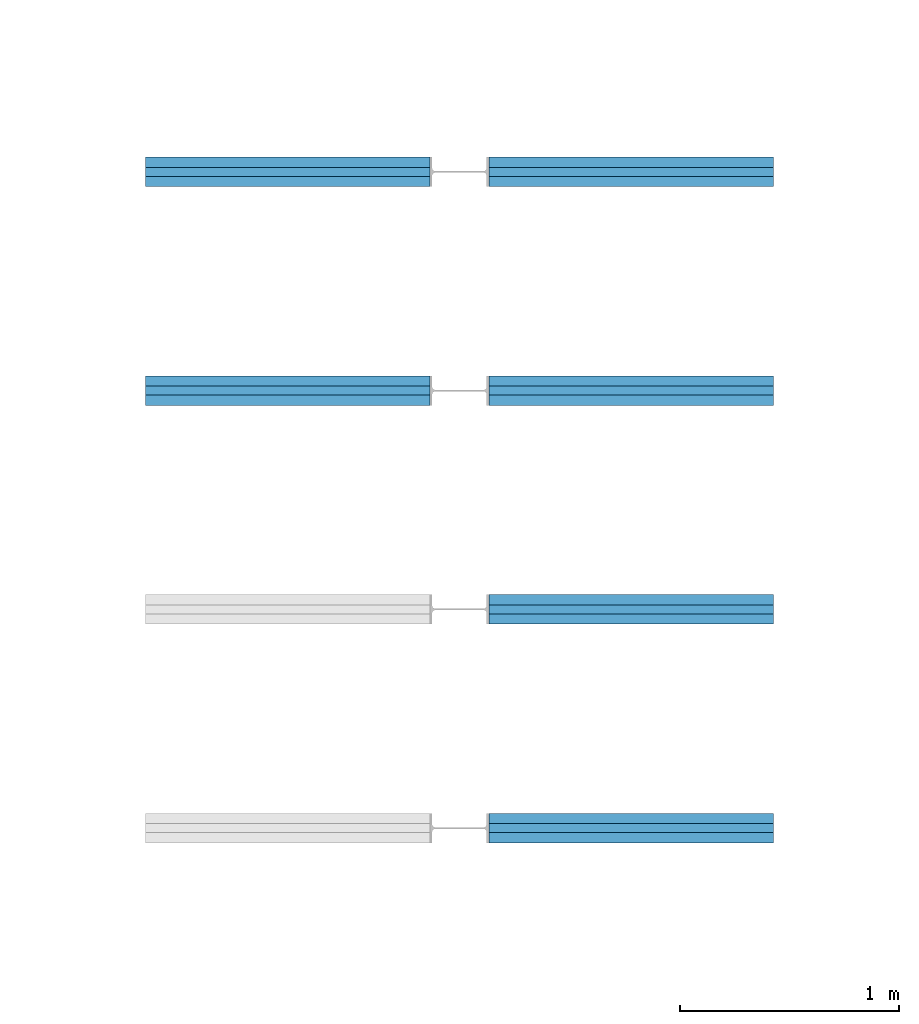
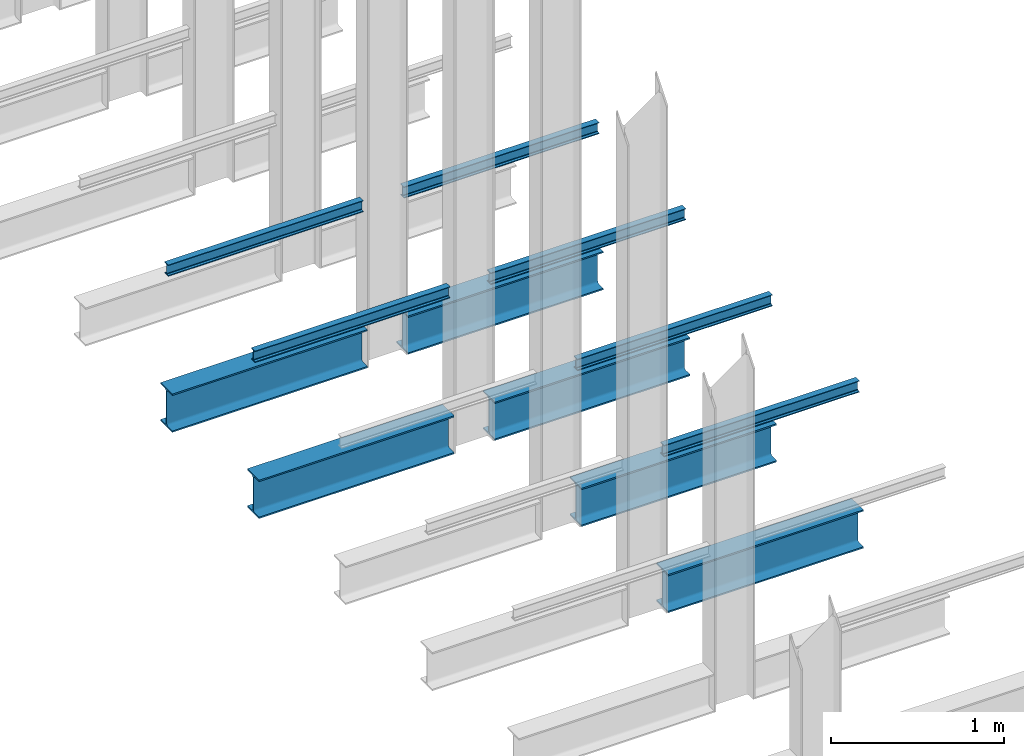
# One storey, part 176 of 302: 12 beams.
"""IFC2X3 building model written with IfcOpenShell, lengths in metres."""

from ifc_helpers import new_model, entity, si_unit, converted_unit, derived_unit, direction, frame, frame_2d, origin, place, context, subcontext, project, spatial, polyline, circle_curve, parameter, trimmed, segment, composite_curve, i_section, outline, extrude, material, type_object, element, save


model = new_model("IFC2X3")

# Units and contexts
model_context = context("Model", 3, precision=1e-05, world=origin(), true_north=direction((6.12303176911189e-17, 1.0)))
body_context = subcontext(model_context, "Body", "Model", "MODEL_VIEW")
ifc_project = project(units=[si_unit("LENGTHUNIT", "METRE"), si_unit("AREAUNIT", "SQUARE_METRE"), si_unit("VOLUMEUNIT", "CUBIC_METRE"), converted_unit("PLANEANGLEUNIT", "DEGREE", entity("IfcRatioMeasure", 0.0174532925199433), si_unit("PLANEANGLEUNIT", "RADIAN"), dimensions=[0, 0, 0, 0, 0, 0, 0]), si_unit("MASSUNIT", "GRAM", prefix="KILO"), derived_unit("MASSDENSITYUNIT", [(si_unit("MASSUNIT", "GRAM", prefix="KILO"), 1), (si_unit("LENGTHUNIT", "METRE"), -3)]), derived_unit("MOMENTOFINERTIAUNIT", [(si_unit("LENGTHUNIT", "METRE"), 4)]), si_unit("TIMEUNIT", "SECOND"), si_unit("FREQUENCYUNIT", "HERTZ"), si_unit("THERMODYNAMICTEMPERATUREUNIT", "DEGREE_CELSIUS"), derived_unit("THERMALTRANSMITTANCEUNIT", [(si_unit("MASSUNIT", "GRAM", prefix="KILO"), 1), (si_unit("THERMODYNAMICTEMPERATUREUNIT", "KELVIN"), -1), (si_unit("TIMEUNIT", "SECOND"), -3)]), derived_unit("VOLUMETRICFLOWRATEUNIT", [(si_unit("LENGTHUNIT", "METRE"), 3), (si_unit("TIMEUNIT", "SECOND"), -1)]), si_unit("ELECTRICCURRENTUNIT", "AMPERE"), si_unit("ELECTRICVOLTAGEUNIT", "VOLT"), si_unit("POWERUNIT", "WATT"), si_unit("FORCEUNIT", "NEWTON", prefix="KILO"), si_unit("ILLUMINANCEUNIT", "LUX"), si_unit("LUMINOUSFLUXUNIT", "LUMEN"), si_unit("LUMINOUSINTENSITYUNIT", "CANDELA"), derived_unit("USERDEFINED", [(si_unit("MASSUNIT", "GRAM", prefix="KILO"), -1), (si_unit("LENGTHUNIT", "METRE"), -2), (si_unit("TIMEUNIT", "SECOND"), 3), (si_unit("LUMINOUSFLUXUNIT", "LUMEN"), 1)]), derived_unit("LINEARVELOCITYUNIT", [(si_unit("LENGTHUNIT", "METRE"), 1), (si_unit("TIMEUNIT", "SECOND"), -1)]), si_unit("PRESSUREUNIT", "PASCAL"), derived_unit("USERDEFINED", [(si_unit("LENGTHUNIT", "METRE"), -2), (si_unit("MASSUNIT", "GRAM", prefix="KILO"), 1), (si_unit("TIMEUNIT", "SECOND"), -2)]), derived_unit("LINEARFORCEUNIT", [(si_unit("MASSUNIT", "GRAM", prefix="KILO"), 1), (si_unit("LENGTHUNIT", "METRE"), 1), (si_unit("TIMEUNIT", "SECOND"), -2), (si_unit("LENGTHUNIT", "METRE"), -1)]), derived_unit("PLANARFORCEUNIT", [(si_unit("MASSUNIT", "GRAM", prefix="KILO"), 1), (si_unit("LENGTHUNIT", "METRE"), 1), (si_unit("TIMEUNIT", "SECOND"), -2), (si_unit("LENGTHUNIT", "METRE"), -2)])], contexts=[model_context])

# Site, building, storey
site_placement = place(None, origin())
site = spatial("IfcSite", under=ifc_project, at=site_placement, Name="Default", CompositionType="ELEMENT")
building_placement = place(site_placement, origin())
building = spatial("IfcBuilding", under=site, at=building_placement, CompositionType="ELEMENT")
storey_placement = place(building_placement, frame((0.0, 0.0, -1.3)))
storey = spatial("IfcBuildingStorey", under=building, at=storey_placement, Name="00_EG", CompositionType="ELEMENT", Elevation=-1.3)

# Beams
ifc_material = material(Name="Metall - Baustahl S235")
beam_type_1 = type_object("IfcBeamType", Name="IPN Träger:IPN 80", PredefinedType="NOTDEFINED")
beam_1_placement = place(storey_placement, frame((-164.640111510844, 46.9945889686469, 2.42)))
element("IfcBeam", 1, at=beam_1_placement, inside=storey, type_object=beam_type_1, material=ifc_material, Name="IPN Träger:IPN 80", ObjectType="IPN Träger:IPN 80", context=body_context, shape_type="SweptSolid", body=[
    extrude(outline(composite_curve([segment(polyline([(0.0375704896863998, -0.0210000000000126), (0.0399999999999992, -0.0210000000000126)]), True, "CONTINUOUS"), segment(polyline([(0.0399999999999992, -0.0210000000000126), (0.0399999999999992, 0.0209999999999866)]), True, "CONTINUOUS"), segment(polyline([(0.039999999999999, 0.0209999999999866), (0.037570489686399, 0.0209999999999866)]), True, "CONTINUOUS"), segment(trimmed(circle_curve(frame_2d((0.0375704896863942, 0.0186999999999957), x_axis=(0.0, 1.0)), 0.0022999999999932), [parameter(0.0)], [parameter(82.0300000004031)], True, "PARAMETER"), True, "CONTINUOUS"), segment(polyline([(0.0352927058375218, 0.0190189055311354), (0.0333732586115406, 0.00530924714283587)]), True, "CONTINUOUS"), segment(trimmed(circle_curve(frame_2d((0.0295109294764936, 0.00584999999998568), x_axis=(0.990340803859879, -0.138654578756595)), 0.00389999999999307), [parameter(277.969999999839)], [parameter(0.0)], True, "PARAMETER"), False, "CONTINUOUS"), segment(polyline([(0.0295109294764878, 0.00194999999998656), (-0.0295109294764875, 0.00194999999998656)]), True, "CONTINUOUS"), segment(trimmed(circle_curve(frame_2d((-0.0295109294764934, 0.00584999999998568), x_axis=(0.0, -1.0)), 0.00389999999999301), [parameter(277.969999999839)], [parameter(0.0)], True, "PARAMETER"), False, "CONTINUOUS"), segment(polyline([(-0.0333732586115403, 0.00530924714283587), (-0.0352927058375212, 0.0190189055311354)]), True, "CONTINUOUS"), segment(trimmed(circle_curve(frame_2d((-0.0375704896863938, 0.0186999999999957), x_axis=(0.990340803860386, 0.138654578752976)), 0.00229999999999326), [parameter(0.0)], [parameter(82.0300000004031)], True, "PARAMETER"), True, "CONTINUOUS"), segment(polyline([(-0.0375704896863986, 0.0209999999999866), (-0.0400000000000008, 0.0209999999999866)]), True, "CONTINUOUS"), segment(polyline([(-0.0400000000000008, 0.0209999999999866), (-0.0400000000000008, -0.0210000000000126)]), True, "CONTINUOUS"), segment(polyline([(-0.0400000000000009, -0.0210000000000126), (-0.037570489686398, -0.0210000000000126)]), True, "CONTINUOUS"), segment(trimmed(circle_curve(frame_2d((-0.0375704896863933, -0.0187000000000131), x_axis=(0.0, -1.0)), 0.00229999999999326), [parameter(0.0)], [parameter(82.0300000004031)], True, "PARAMETER"), True, "CONTINUOUS"), segment(polyline([(-0.0352927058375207, -0.0190189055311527), (-0.0333732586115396, -0.0053092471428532)]), True, "CONTINUOUS"), segment(trimmed(circle_curve(frame_2d((-0.0295109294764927, -0.005850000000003), x_axis=(-0.990340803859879, 0.138654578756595)), 0.00389999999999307), [parameter(277.969999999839)], [parameter(0.0)], True, "PARAMETER"), False, "CONTINUOUS"), segment(polyline([(-0.0295109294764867, -0.00195000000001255), (0.0295109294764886, -0.00195000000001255)]), True, "CONTINUOUS"), segment(trimmed(circle_curve(frame_2d((0.0295109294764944, -0.005850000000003), x_axis=(0.0, 1.0)), 0.00389999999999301), [parameter(277.969999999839)], [parameter(0.0)], True, "PARAMETER"), False, "CONTINUOUS"), segment(polyline([(0.0333732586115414, -0.0053092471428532), (0.0352927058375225, -0.0190189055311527)]), True, "CONTINUOUS"), segment(trimmed(circle_curve(frame_2d((0.0375704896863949, -0.0187000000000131), x_axis=(-0.990340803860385, -0.138654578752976)), 0.00229999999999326), [parameter(0.0)], [parameter(82.0300000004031)], True, "PARAMETER"), True, "CONTINUOUS")], self_intersect=False)), frame((9.99999999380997e-05, 0.0210000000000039, -0.0400000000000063), z_axis=(1.0, 0.0, 0.0), x_axis=(0.0, 0.0, -1.0)), (0.0, 0.0, 1.0), 1.29990000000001),
])
beam_2_placement = place(storey_placement, frame((-164.910111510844, 47.0365889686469, 2.42), z_axis=(0.0, 0.0, 1.0), x_axis=(-1.0, 0.0, 0.0)))
element("IfcBeam", 2, at=beam_2_placement, inside=storey, type_object=beam_type_1, material=ifc_material, Name="IPN Träger:IPN 80", ObjectType="IPN Träger:IPN 80", context=body_context, shape_type="SweptSolid", body=[
    extrude(outline(composite_curve([segment(polyline([(0.0375704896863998, -0.0209999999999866), (0.0399999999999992, -0.0209999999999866)]), True, "CONTINUOUS"), segment(polyline([(0.0399999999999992, -0.0209999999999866), (0.0399999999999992, 0.0210000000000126)]), True, "CONTINUOUS"), segment(polyline([(0.039999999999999, 0.0210000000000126), (0.037570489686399, 0.0210000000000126)]), True, "CONTINUOUS"), segment(trimmed(circle_curve(frame_2d((0.0375704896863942, 0.0187000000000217), x_axis=(0.0, 1.0)), 0.0022999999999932), [parameter(0.0)], [parameter(82.0300000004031)], True, "PARAMETER"), True, "CONTINUOUS"), segment(polyline([(0.0352927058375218, 0.0190189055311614), (0.0333732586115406, 0.00530924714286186)]), True, "CONTINUOUS"), segment(trimmed(circle_curve(frame_2d((0.0295109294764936, 0.00585000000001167), x_axis=(0.990340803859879, -0.138654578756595)), 0.00389999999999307), [parameter(277.969999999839)], [parameter(0.0)], True, "PARAMETER"), False, "CONTINUOUS"), segment(polyline([(0.0295109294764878, 0.00195000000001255), (-0.0295109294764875, 0.00195000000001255)]), True, "CONTINUOUS"), segment(trimmed(circle_curve(frame_2d((-0.0295109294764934, 0.00585000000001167), x_axis=(0.0, -1.0)), 0.00389999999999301), [parameter(277.969999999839)], [parameter(0.0)], True, "PARAMETER"), False, "CONTINUOUS"), segment(polyline([(-0.0333732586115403, 0.00530924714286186), (-0.0352927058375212, 0.0190189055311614)]), True, "CONTINUOUS"), segment(trimmed(circle_curve(frame_2d((-0.0375704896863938, 0.0187000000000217), x_axis=(0.990340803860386, 0.138654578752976)), 0.00229999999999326), [parameter(0.0)], [parameter(82.0300000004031)], True, "PARAMETER"), True, "CONTINUOUS"), segment(polyline([(-0.0375704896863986, 0.0210000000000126), (-0.0400000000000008, 0.0210000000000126)]), True, "CONTINUOUS"), segment(polyline([(-0.0400000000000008, 0.0210000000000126), (-0.0400000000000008, -0.0209999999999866)]), True, "CONTINUOUS"), segment(polyline([(-0.0400000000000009, -0.0209999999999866), (-0.037570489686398, -0.0209999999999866)]), True, "CONTINUOUS"), segment(trimmed(circle_curve(frame_2d((-0.0375704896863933, -0.0186999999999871), x_axis=(0.0, -1.0)), 0.00229999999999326), [parameter(0.0)], [parameter(82.0300000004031)], True, "PARAMETER"), True, "CONTINUOUS"), segment(polyline([(-0.0352927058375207, -0.0190189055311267), (-0.0333732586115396, -0.00530924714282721)]), True, "CONTINUOUS"), segment(trimmed(circle_curve(frame_2d((-0.0295109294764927, -0.00584999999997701), x_axis=(-0.990340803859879, 0.138654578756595)), 0.00389999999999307), [parameter(277.969999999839)], [parameter(0.0)], True, "PARAMETER"), False, "CONTINUOUS"), segment(polyline([(-0.0295109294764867, -0.00194999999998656), (0.0295109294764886, -0.00194999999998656)]), True, "CONTINUOUS"), segment(trimmed(circle_curve(frame_2d((0.0295109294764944, -0.00584999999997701), x_axis=(0.0, 1.0)), 0.00389999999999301), [parameter(277.969999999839)], [parameter(0.0)], True, "PARAMETER"), False, "CONTINUOUS"), segment(polyline([(0.0333732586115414, -0.00530924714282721), (0.0352927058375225, -0.0190189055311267)]), True, "CONTINUOUS"), segment(trimmed(circle_curve(frame_2d((0.0375704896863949, -0.0186999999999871), x_axis=(-0.990340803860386, -0.138654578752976)), 0.00229999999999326), [parameter(0.0)], [parameter(82.0300000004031)], True, "PARAMETER"), True, "CONTINUOUS")], self_intersect=False)), frame((0.000100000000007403, 0.0209999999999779, -0.0400000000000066), z_axis=(1.0, 0.0, 0.0), x_axis=(0.0, 0.0, -1.0)), (0.0, 0.0, 1.0), 1.29990000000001),
])
beam_3_placement = place(storey_placement, frame((-164.640111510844, 45.9945889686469, 2.42)))
element("IfcBeam", 3, at=beam_3_placement, inside=storey, type_object=beam_type_1, material=ifc_material, Name="IPN Träger:IPN 80", ObjectType="IPN Träger:IPN 80", context=body_context, shape_type="SweptSolid", body=[
    extrude(outline(composite_curve([segment(polyline([(0.0375704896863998, -0.0210000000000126), (0.0399999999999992, -0.0210000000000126)]), True, "CONTINUOUS"), segment(polyline([(0.0399999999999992, -0.0210000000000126), (0.0399999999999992, 0.0209999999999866)]), True, "CONTINUOUS"), segment(polyline([(0.039999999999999, 0.0209999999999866), (0.037570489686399, 0.0209999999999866)]), True, "CONTINUOUS"), segment(trimmed(circle_curve(frame_2d((0.0375704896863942, 0.0186999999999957), x_axis=(0.0, 1.0)), 0.0022999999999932), [parameter(0.0)], [parameter(82.0300000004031)], True, "PARAMETER"), True, "CONTINUOUS"), segment(polyline([(0.0352927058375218, 0.0190189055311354), (0.0333732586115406, 0.00530924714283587)]), True, "CONTINUOUS"), segment(trimmed(circle_curve(frame_2d((0.0295109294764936, 0.00584999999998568), x_axis=(0.990340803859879, -0.138654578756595)), 0.00389999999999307), [parameter(277.969999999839)], [parameter(0.0)], True, "PARAMETER"), False, "CONTINUOUS"), segment(polyline([(0.0295109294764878, 0.00194999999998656), (-0.0295109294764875, 0.00194999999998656)]), True, "CONTINUOUS"), segment(trimmed(circle_curve(frame_2d((-0.0295109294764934, 0.00584999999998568), x_axis=(0.0, -1.0)), 0.00389999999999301), [parameter(277.969999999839)], [parameter(0.0)], True, "PARAMETER"), False, "CONTINUOUS"), segment(polyline([(-0.0333732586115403, 0.00530924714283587), (-0.0352927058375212, 0.0190189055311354)]), True, "CONTINUOUS"), segment(trimmed(circle_curve(frame_2d((-0.0375704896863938, 0.0186999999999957), x_axis=(0.990340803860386, 0.138654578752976)), 0.00229999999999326), [parameter(0.0)], [parameter(82.0300000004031)], True, "PARAMETER"), True, "CONTINUOUS"), segment(polyline([(-0.0375704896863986, 0.0209999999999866), (-0.0400000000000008, 0.0209999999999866)]), True, "CONTINUOUS"), segment(polyline([(-0.0400000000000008, 0.0209999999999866), (-0.0400000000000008, -0.0210000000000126)]), True, "CONTINUOUS"), segment(polyline([(-0.0400000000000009, -0.0210000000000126), (-0.037570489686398, -0.0210000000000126)]), True, "CONTINUOUS"), segment(trimmed(circle_curve(frame_2d((-0.0375704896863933, -0.0187000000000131), x_axis=(0.0, -1.0)), 0.00229999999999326), [parameter(0.0)], [parameter(82.0300000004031)], True, "PARAMETER"), True, "CONTINUOUS"), segment(polyline([(-0.0352927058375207, -0.0190189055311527), (-0.0333732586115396, -0.0053092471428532)]), True, "CONTINUOUS"), segment(trimmed(circle_curve(frame_2d((-0.0295109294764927, -0.005850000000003), x_axis=(-0.990340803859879, 0.138654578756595)), 0.00389999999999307), [parameter(277.969999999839)], [parameter(0.0)], True, "PARAMETER"), False, "CONTINUOUS"), segment(polyline([(-0.0295109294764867, -0.00195000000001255), (0.0295109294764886, -0.00195000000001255)]), True, "CONTINUOUS"), segment(trimmed(circle_curve(frame_2d((0.0295109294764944, -0.005850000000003), x_axis=(0.0, 1.0)), 0.00389999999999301), [parameter(277.969999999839)], [parameter(0.0)], True, "PARAMETER"), False, "CONTINUOUS"), segment(polyline([(0.0333732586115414, -0.0053092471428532), (0.0352927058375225, -0.0190189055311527)]), True, "CONTINUOUS"), segment(trimmed(circle_curve(frame_2d((0.0375704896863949, -0.0187000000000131), x_axis=(-0.990340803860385, -0.138654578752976)), 0.00229999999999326), [parameter(0.0)], [parameter(82.0300000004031)], True, "PARAMETER"), True, "CONTINUOUS")], self_intersect=False)), frame((9.99999999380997e-05, 0.0210000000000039, -0.0400000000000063), z_axis=(1.0, 0.0, 0.0), x_axis=(0.0, 0.0, -1.0)), (0.0, 0.0, 1.0), 1.29990000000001),
])
beam_4_placement = place(storey_placement, frame((-164.910111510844, 46.0365889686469, 2.42), z_axis=(0.0, 0.0, 1.0), x_axis=(-1.0, 0.0, 0.0)))
element("IfcBeam", 4, at=beam_4_placement, inside=storey, type_object=beam_type_1, material=ifc_material, Name="IPN Träger:IPN 80", ObjectType="IPN Träger:IPN 80", context=body_context, shape_type="SweptSolid", body=[
    extrude(outline(composite_curve([segment(polyline([(0.0375704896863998, -0.0209999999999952), (0.0399999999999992, -0.0209999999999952)]), True, "CONTINUOUS"), segment(polyline([(0.0399999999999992, -0.0209999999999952), (0.0399999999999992, 0.0210000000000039)]), True, "CONTINUOUS"), segment(polyline([(0.039999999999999, 0.0210000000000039), (0.037570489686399, 0.0210000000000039)]), True, "CONTINUOUS"), segment(trimmed(circle_curve(frame_2d((0.0375704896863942, 0.0187000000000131), x_axis=(0.0, 1.0)), 0.0022999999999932), [parameter(0.0)], [parameter(82.0300000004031)], True, "PARAMETER"), True, "CONTINUOUS"), segment(polyline([(0.0352927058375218, 0.0190189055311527), (0.0333732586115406, 0.0053092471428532)]), True, "CONTINUOUS"), segment(trimmed(circle_curve(frame_2d((0.0295109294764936, 0.005850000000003), x_axis=(0.990340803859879, -0.138654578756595)), 0.00389999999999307), [parameter(277.969999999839)], [parameter(0.0)], True, "PARAMETER"), False, "CONTINUOUS"), segment(polyline([(0.0295109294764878, 0.00195000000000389), (-0.0295109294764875, 0.00195000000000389)]), True, "CONTINUOUS"), segment(trimmed(circle_curve(frame_2d((-0.0295109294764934, 0.005850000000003), x_axis=(0.0, -1.0)), 0.00389999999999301), [parameter(277.969999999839)], [parameter(0.0)], True, "PARAMETER"), False, "CONTINUOUS"), segment(polyline([(-0.0333732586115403, 0.0053092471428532), (-0.0352927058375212, 0.0190189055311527)]), True, "CONTINUOUS"), segment(trimmed(circle_curve(frame_2d((-0.0375704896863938, 0.0187000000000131), x_axis=(0.990340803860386, 0.138654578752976)), 0.00229999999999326), [parameter(0.0)], [parameter(82.0300000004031)], True, "PARAMETER"), True, "CONTINUOUS"), segment(polyline([(-0.0375704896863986, 0.0210000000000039), (-0.0400000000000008, 0.0210000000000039)]), True, "CONTINUOUS"), segment(polyline([(-0.0400000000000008, 0.0210000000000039), (-0.0400000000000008, -0.0209999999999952)]), True, "CONTINUOUS"), segment(polyline([(-0.0400000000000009, -0.0209999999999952), (-0.037570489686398, -0.0209999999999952)]), True, "CONTINUOUS"), segment(trimmed(circle_curve(frame_2d((-0.0375704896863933, -0.0186999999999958), x_axis=(0.0, -1.0)), 0.00229999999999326), [parameter(0.0)], [parameter(82.0300000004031)], True, "PARAMETER"), True, "CONTINUOUS"), segment(polyline([(-0.0352927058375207, -0.0190189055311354), (-0.0333732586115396, -0.00530924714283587)]), True, "CONTINUOUS"), segment(trimmed(circle_curve(frame_2d((-0.0295109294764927, -0.00584999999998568), x_axis=(-0.990340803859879, 0.138654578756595)), 0.00389999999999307), [parameter(277.969999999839)], [parameter(0.0)], True, "PARAMETER"), False, "CONTINUOUS"), segment(polyline([(-0.0295109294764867, -0.00194999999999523), (0.0295109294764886, -0.00194999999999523)]), True, "CONTINUOUS"), segment(trimmed(circle_curve(frame_2d((0.0295109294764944, -0.00584999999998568), x_axis=(0.0, 1.0)), 0.00389999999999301), [parameter(277.969999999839)], [parameter(0.0)], True, "PARAMETER"), False, "CONTINUOUS"), segment(polyline([(0.0333732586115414, -0.00530924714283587), (0.0352927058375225, -0.0190189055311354)]), True, "CONTINUOUS"), segment(trimmed(circle_curve(frame_2d((0.0375704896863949, -0.0186999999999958), x_axis=(-0.990340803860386, -0.138654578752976)), 0.00229999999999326), [parameter(0.0)], [parameter(82.0300000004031)], True, "PARAMETER"), True, "CONTINUOUS")], self_intersect=False)), frame((0.000100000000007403, 0.0209999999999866, -0.0400000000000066), z_axis=(1.0, 0.0, 0.0), x_axis=(0.0, 0.0, -1.0)), (0.0, 0.0, 1.0), 1.29990000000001),
])
beam_5_placement = place(storey_placement, frame((-164.640111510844, 44.9945889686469, 2.42)))
element("IfcBeam", 5, at=beam_5_placement, inside=storey, type_object=beam_type_1, material=ifc_material, Name="IPN Träger:IPN 80", ObjectType="IPN Träger:IPN 80", context=body_context, shape_type="SweptSolid", body=[
    extrude(outline(composite_curve([segment(polyline([(0.0375704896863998, -0.0210000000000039), (0.0399999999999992, -0.0210000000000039)]), True, "CONTINUOUS"), segment(polyline([(0.0399999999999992, -0.0210000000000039), (0.0399999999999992, 0.0209999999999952)]), True, "CONTINUOUS"), segment(polyline([(0.039999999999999, 0.0209999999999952), (0.037570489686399, 0.0209999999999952)]), True, "CONTINUOUS"), segment(trimmed(circle_curve(frame_2d((0.0375704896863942, 0.0187000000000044), x_axis=(0.0, 1.0)), 0.0022999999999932), [parameter(0.0)], [parameter(82.0300000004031)], True, "PARAMETER"), True, "CONTINUOUS"), segment(polyline([(0.0352927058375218, 0.019018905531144), (0.0333732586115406, 0.00530924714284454)]), True, "CONTINUOUS"), segment(trimmed(circle_curve(frame_2d((0.0295109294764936, 0.00584999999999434), x_axis=(0.990340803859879, -0.138654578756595)), 0.00389999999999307), [parameter(277.969999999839)], [parameter(0.0)], True, "PARAMETER"), False, "CONTINUOUS"), segment(polyline([(0.0295109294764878, 0.00194999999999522), (-0.0295109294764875, 0.00194999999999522)]), True, "CONTINUOUS"), segment(trimmed(circle_curve(frame_2d((-0.0295109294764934, 0.00584999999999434), x_axis=(0.0, -1.0)), 0.00389999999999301), [parameter(277.969999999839)], [parameter(0.0)], True, "PARAMETER"), False, "CONTINUOUS"), segment(polyline([(-0.0333732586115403, 0.00530924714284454), (-0.0352927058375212, 0.019018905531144)]), True, "CONTINUOUS"), segment(trimmed(circle_curve(frame_2d((-0.0375704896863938, 0.0187000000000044), x_axis=(0.990340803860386, 0.138654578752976)), 0.00229999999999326), [parameter(0.0)], [parameter(82.0300000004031)], True, "PARAMETER"), True, "CONTINUOUS"), segment(polyline([(-0.0375704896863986, 0.0209999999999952), (-0.0400000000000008, 0.0209999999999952)]), True, "CONTINUOUS"), segment(polyline([(-0.0400000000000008, 0.0209999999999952), (-0.0400000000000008, -0.0210000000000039)]), True, "CONTINUOUS"), segment(polyline([(-0.0400000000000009, -0.0210000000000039), (-0.037570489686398, -0.0210000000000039)]), True, "CONTINUOUS"), segment(trimmed(circle_curve(frame_2d((-0.0375704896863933, -0.0187000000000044), x_axis=(0.0, -1.0)), 0.00229999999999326), [parameter(0.0)], [parameter(82.0300000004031)], True, "PARAMETER"), True, "CONTINUOUS"), segment(polyline([(-0.0352927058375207, -0.019018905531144), (-0.0333732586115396, -0.00530924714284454)]), True, "CONTINUOUS"), segment(trimmed(circle_curve(frame_2d((-0.0295109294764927, -0.00584999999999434), x_axis=(-0.990340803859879, 0.138654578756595)), 0.00389999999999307), [parameter(277.969999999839)], [parameter(0.0)], True, "PARAMETER"), False, "CONTINUOUS"), segment(polyline([(-0.0295109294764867, -0.00195000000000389), (0.0295109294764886, -0.00195000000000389)]), True, "CONTINUOUS"), segment(trimmed(circle_curve(frame_2d((0.0295109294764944, -0.00584999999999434), x_axis=(0.0, 1.0)), 0.00389999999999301), [parameter(277.969999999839)], [parameter(0.0)], True, "PARAMETER"), False, "CONTINUOUS"), segment(polyline([(0.0333732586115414, -0.00530924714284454), (0.0352927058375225, -0.019018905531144)]), True, "CONTINUOUS"), segment(trimmed(circle_curve(frame_2d((0.0375704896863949, -0.0187000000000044), x_axis=(-0.990340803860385, -0.138654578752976)), 0.00229999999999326), [parameter(0.0)], [parameter(82.0300000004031)], True, "PARAMETER"), True, "CONTINUOUS")], self_intersect=False)), frame((9.99999999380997e-05, 0.0209999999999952, -0.0400000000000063), z_axis=(1.0, 0.0, 0.0), x_axis=(0.0, 0.0, -1.0)), (0.0, 0.0, 1.0), 1.29990000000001),
])
beam_6_placement = place(storey_placement, frame((-164.640111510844, 43.9945889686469, 2.42)))
element("IfcBeam", 6, at=beam_6_placement, inside=storey, type_object=beam_type_1, material=ifc_material, Name="IPN Träger:IPN 80", ObjectType="IPN Träger:IPN 80", context=body_context, shape_type="SweptSolid", body=[
    extrude(outline(composite_curve([segment(polyline([(0.0375704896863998, -0.0209999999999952), (0.0399999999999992, -0.0209999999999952)]), True, "CONTINUOUS"), segment(polyline([(0.0399999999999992, -0.0209999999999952), (0.0399999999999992, 0.0210000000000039)]), True, "CONTINUOUS"), segment(polyline([(0.039999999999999, 0.0210000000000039), (0.037570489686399, 0.0210000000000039)]), True, "CONTINUOUS"), segment(trimmed(circle_curve(frame_2d((0.0375704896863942, 0.0187000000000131), x_axis=(0.0, 1.0)), 0.0022999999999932), [parameter(0.0)], [parameter(82.0300000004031)], True, "PARAMETER"), True, "CONTINUOUS"), segment(polyline([(0.0352927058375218, 0.0190189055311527), (0.0333732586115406, 0.0053092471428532)]), True, "CONTINUOUS"), segment(trimmed(circle_curve(frame_2d((0.0295109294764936, 0.005850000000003), x_axis=(0.990340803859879, -0.138654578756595)), 0.00389999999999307), [parameter(277.969999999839)], [parameter(0.0)], True, "PARAMETER"), False, "CONTINUOUS"), segment(polyline([(0.0295109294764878, 0.00195000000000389), (-0.0295109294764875, 0.00195000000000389)]), True, "CONTINUOUS"), segment(trimmed(circle_curve(frame_2d((-0.0295109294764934, 0.005850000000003), x_axis=(0.0, -1.0)), 0.00389999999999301), [parameter(277.969999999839)], [parameter(0.0)], True, "PARAMETER"), False, "CONTINUOUS"), segment(polyline([(-0.0333732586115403, 0.0053092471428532), (-0.0352927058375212, 0.0190189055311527)]), True, "CONTINUOUS"), segment(trimmed(circle_curve(frame_2d((-0.0375704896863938, 0.0187000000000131), x_axis=(0.990340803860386, 0.138654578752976)), 0.00229999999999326), [parameter(0.0)], [parameter(82.0300000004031)], True, "PARAMETER"), True, "CONTINUOUS"), segment(polyline([(-0.0375704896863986, 0.0210000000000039), (-0.0400000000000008, 0.0210000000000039)]), True, "CONTINUOUS"), segment(polyline([(-0.0400000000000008, 0.0210000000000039), (-0.0400000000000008, -0.0209999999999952)]), True, "CONTINUOUS"), segment(polyline([(-0.0400000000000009, -0.0209999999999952), (-0.037570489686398, -0.0209999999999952)]), True, "CONTINUOUS"), segment(trimmed(circle_curve(frame_2d((-0.0375704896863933, -0.0186999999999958), x_axis=(0.0, -1.0)), 0.00229999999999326), [parameter(0.0)], [parameter(82.0300000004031)], True, "PARAMETER"), True, "CONTINUOUS"), segment(polyline([(-0.0352927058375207, -0.0190189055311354), (-0.0333732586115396, -0.00530924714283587)]), True, "CONTINUOUS"), segment(trimmed(circle_curve(frame_2d((-0.0295109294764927, -0.00584999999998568), x_axis=(-0.990340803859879, 0.138654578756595)), 0.00389999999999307), [parameter(277.969999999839)], [parameter(0.0)], True, "PARAMETER"), False, "CONTINUOUS"), segment(polyline([(-0.0295109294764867, -0.00194999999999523), (0.0295109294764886, -0.00194999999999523)]), True, "CONTINUOUS"), segment(trimmed(circle_curve(frame_2d((0.0295109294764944, -0.00584999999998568), x_axis=(0.0, 1.0)), 0.00389999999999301), [parameter(277.969999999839)], [parameter(0.0)], True, "PARAMETER"), False, "CONTINUOUS"), segment(polyline([(0.0333732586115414, -0.00530924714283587), (0.0352927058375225, -0.0190189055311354)]), True, "CONTINUOUS"), segment(trimmed(circle_curve(frame_2d((0.0375704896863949, -0.0186999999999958), x_axis=(-0.990340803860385, -0.138654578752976)), 0.00229999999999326), [parameter(0.0)], [parameter(82.0300000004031)], True, "PARAMETER"), True, "CONTINUOUS")], self_intersect=False)), frame((9.99999999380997e-05, 0.0209999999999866, -0.0400000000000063), z_axis=(1.0, 0.0, 0.0), x_axis=(0.0, 0.0, -1.0)), (0.0, 0.0, 1.0), 1.29990000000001),
])
beam_type_2 = type_object("IfcBeamType", Name="IPE Träger:IPE 270", PredefinedType="NOTDEFINED")
beam_7_placement = place(storey_placement, frame((-164.640111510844, 44.0830889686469, 1.54000000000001)))
element("IfcBeam", 7, at=beam_7_placement, inside=storey, type_object=beam_type_2, material=ifc_material, Name="IPE Träger:IPE 270", ObjectType="IPE Träger:IPE 270", context=body_context, shape_type="SweptSolid", body=[
    extrude(i_section(OverallWidth=0.134999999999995, OverallDepth=0.27, WebThickness=0.0065999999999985, FlangeThickness=0.0102000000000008, FilletRadius=0.0149999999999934, at=frame_2d((5.96744875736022e-16, 0.0), x_axis=(0.0, 1.0))), frame((9.99999999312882e-05, -0.067500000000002, -0.135000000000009), z_axis=(1.0, 0.0, 0.0), x_axis=(0.0, 0.0, -1.0)), (0.0, 0.0, 1.0), 1.29990000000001),
])
beam_8_placement = place(storey_placement, frame((-164.640111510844, 45.0830889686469, 1.54000000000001)))
element("IfcBeam", 8, at=beam_8_placement, inside=storey, type_object=beam_type_2, material=ifc_material, Name="IPE Träger:IPE 270", ObjectType="IPE Träger:IPE 270", context=body_context, shape_type="SweptSolid", body=[
    extrude(i_section(OverallWidth=0.134999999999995, OverallDepth=0.27, WebThickness=0.0065999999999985, FlangeThickness=0.0102000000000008, FilletRadius=0.0149999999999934, at=frame_2d((5.96744875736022e-16, -8.66667848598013e-15), x_axis=(0.0, 1.0))), frame((9.99999999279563e-05, -0.0674999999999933, -0.135000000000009), z_axis=(1.0, 0.0, 0.0), x_axis=(0.0, 0.0, -1.0)), (0.0, 0.0, 1.0), 1.29990000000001),
])
beam_9_placement = place(storey_placement, frame((-164.910111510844, 46.0830889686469, 1.54000000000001), z_axis=(0.0, 0.0, 1.0), x_axis=(-1.0, 0.0, 0.0)))
element("IfcBeam", 9, at=beam_9_placement, inside=storey, type_object=beam_type_2, material=ifc_material, Name="IPE Träger:IPE 270", ObjectType="IPE Träger:IPE 270", context=body_context, shape_type="SweptSolid", body=[
    extrude(i_section(OverallWidth=0.134999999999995, OverallDepth=0.27, WebThickness=0.0065999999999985, FlangeThickness=0.0102000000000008, FilletRadius=0.0149999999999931, at=frame_2d((5.96744875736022e-16, 0.0), x_axis=(0.0, 1.0))), frame((9.99999999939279e-05, 0.067500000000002, -0.135000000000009), z_axis=(1.0, 0.0, 0.0), x_axis=(0.0, 0.0, -1.0)), (0.0, 0.0, 1.0), 1.29990000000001),
])
beam_10_placement = place(storey_placement, frame((-164.640111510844, 46.0830889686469, 1.54000000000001)))
element("IfcBeam", 10, at=beam_10_placement, inside=storey, type_object=beam_type_2, material=ifc_material, Name="IPE Träger:IPE 270", ObjectType="IPE Träger:IPE 270", context=body_context, shape_type="SweptSolid", body=[
    extrude(i_section(OverallWidth=0.134999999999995, OverallDepth=0.27, WebThickness=0.0065999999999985, FlangeThickness=0.0102000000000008, FilletRadius=0.0149999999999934, at=frame_2d((5.96744875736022e-16, 0.0), x_axis=(0.0, 1.0))), frame((9.99999999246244e-05, -0.067500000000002, -0.135000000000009), z_axis=(1.0, 0.0, 0.0), x_axis=(0.0, 0.0, -1.0)), (0.0, 0.0, 1.0), 1.29990000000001),
])
beam_11_placement = place(storey_placement, frame((-164.910111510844, 47.0830889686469, 1.54000000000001), z_axis=(0.0, 0.0, 1.0), x_axis=(-1.0, 0.0, 0.0)))
element("IfcBeam", 11, at=beam_11_placement, inside=storey, type_object=beam_type_2, material=ifc_material, Name="IPE Träger:IPE 270", ObjectType="IPE Träger:IPE 270", context=body_context, shape_type="SweptSolid", body=[
    extrude(i_section(OverallWidth=0.134999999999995, OverallDepth=0.27, WebThickness=0.0065999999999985, FlangeThickness=0.0102000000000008, FilletRadius=0.0149999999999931, at=frame_2d((5.96744875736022e-16, -8.66667848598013e-15), x_axis=(0.0, 1.0))), frame((0.000100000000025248, 0.0675000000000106, -0.135000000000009), z_axis=(1.0, 0.0, 0.0), x_axis=(0.0, 0.0, -1.0)), (0.0, 0.0, 1.0), 1.29990000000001),
])
beam_12_placement = place(storey_placement, frame((-164.640111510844, 47.0830889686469, 1.54000000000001)))
element("IfcBeam", 12, at=beam_12_placement, inside=storey, type_object=beam_type_2, material=ifc_material, Name="IPE Träger:IPE 270", ObjectType="IPE Träger:IPE 270", context=body_context, shape_type="SweptSolid", body=[
    extrude(i_section(OverallWidth=0.134999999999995, OverallDepth=0.27, WebThickness=0.0065999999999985, FlangeThickness=0.0102000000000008, FilletRadius=0.0149999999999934, at=frame_2d((5.96744875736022e-16, -8.66667848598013e-15), x_axis=(0.0, 1.0))), frame((9.99999999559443e-05, -0.0674999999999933, -0.135000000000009), z_axis=(1.0, 0.0, 0.0), x_axis=(0.0, 0.0, -1.0)), (0.0, 0.0, 1.0), 1.29990000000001),
])

save(model, "model.ifc")
